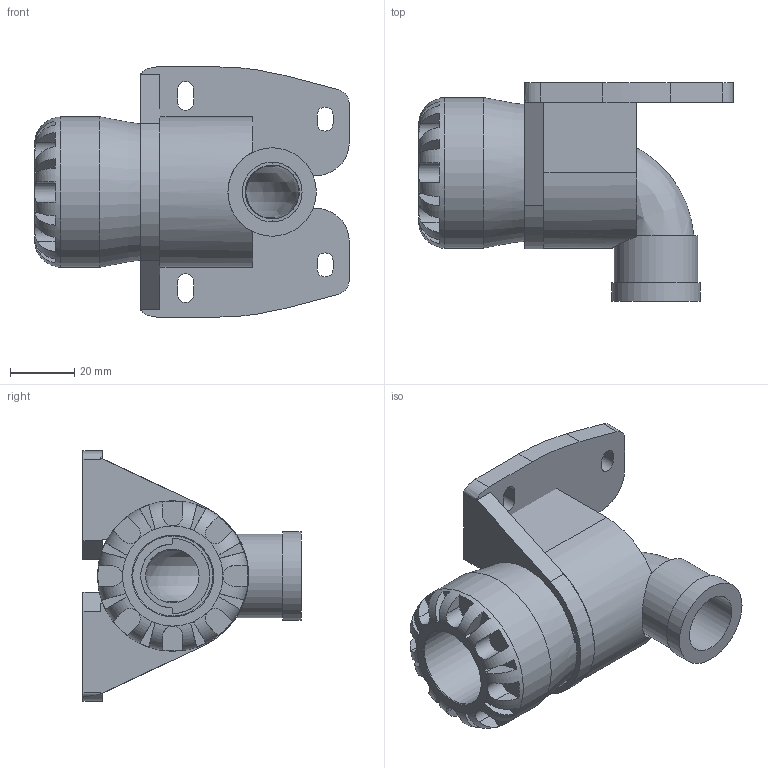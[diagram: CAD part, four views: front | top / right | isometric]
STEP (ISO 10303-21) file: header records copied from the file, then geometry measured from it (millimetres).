
FILE_DESCRIPTION(/* description */ ('PLASSON WALL PLATE ELBOW 25X1/2" SERIES 1'),/* implementation_level */ '2;1');
FILE_NAME(/* name */ 'C:\Dropbox\KIMPROJECTS-Inventor\99-16-3568-Processing\1075\107500025005.ipt.stp',/* time_stamp */ '2017-01-22T11:46:39+02:00',/* author */ ('KIM'),/* organization */ (''),/* preprocessor_version */ 'ST-DEVELOPER v15.6',/* originating_system */ 'Autodesk Inventor 2015',/* authorisation */ '');
FILE_SCHEMA (('AUTOMOTIVE_DESIGN { 1 0 10303 214 3 1 1 }'));
Length unit declared in the file: millimetre
Products named in the file (1): 107500025005
Bounding box: 98 x 68 x 78 mm (x, y, z)
Volume: 111183.6 mm3; surface area: 41662.8 mm2
Topology: 2 solids, 2 shells, 161 faces, 439 edges, 286 vertices
Faces by surface type: plane 102, cylinder 41, bspline 15, torus 2, cone 1
Full cylindrical faces by diameter (mm): 18.631 x1, 25 x1, 26.083 x1, 27.574 x1, 41.36 x1, 47 x1
Entity records: 6109 total; most frequent: CARTESIAN_POINT 1952, ORIENTED_EDGE 848, DIRECTION 801, EDGE_CURVE 424, AXIS2_PLACEMENT_3D 297, VERTEX_POINT 281, LINE 207, VECTOR 207
